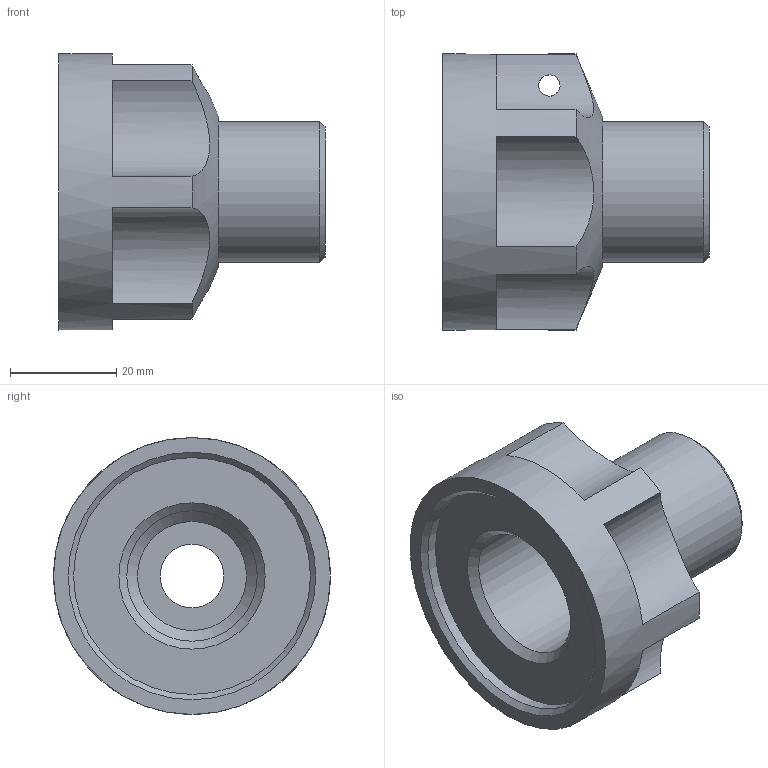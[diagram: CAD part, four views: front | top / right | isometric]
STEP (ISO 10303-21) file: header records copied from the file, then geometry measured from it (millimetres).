
FILE_DESCRIPTION( ( 'Unknown' ), '1' );
FILE_NAME( 'F:/navkite transat/construction/2016/3D ET ASSEMBLAGES/kites/valve 3-4.stp', 'Unknown', ( 'GMA' ), ( 'Unknown' ), 'XStep 1.0', 'Unknown', ' ' );
FILE_SCHEMA( ( 'automotive_design' ) );
Length unit declared in the file: millimetre
Products named in the file (1): 1
Bounding box: 50 x 52 x 52 mm (x, y, z)
Volume: 37683.1 mm3; surface area: 13741.4 mm2
Topology: 1 solids, 1 shells, 31 faces, 75 edges, 50 vertices
Faces by surface type: cylinder 13, plane 12, cone 6
Full cylindrical faces by diameter (mm): 4 x1, 12 x1, 17.5 x1, 24.5 x1, 26.44 x1, 44.5 x1, 52 x1
Entity records: 1358 total; most frequent: CARTESIAN_POINT 436, DIRECTION 146, ORIENTED_EDGE 110, AXIS2_PLACEMENT_3D 67, EDGE_CURVE 55, EDGE_LOOP 52, VERTEX_POINT 43, FACE_OUTER_BOUND 38
